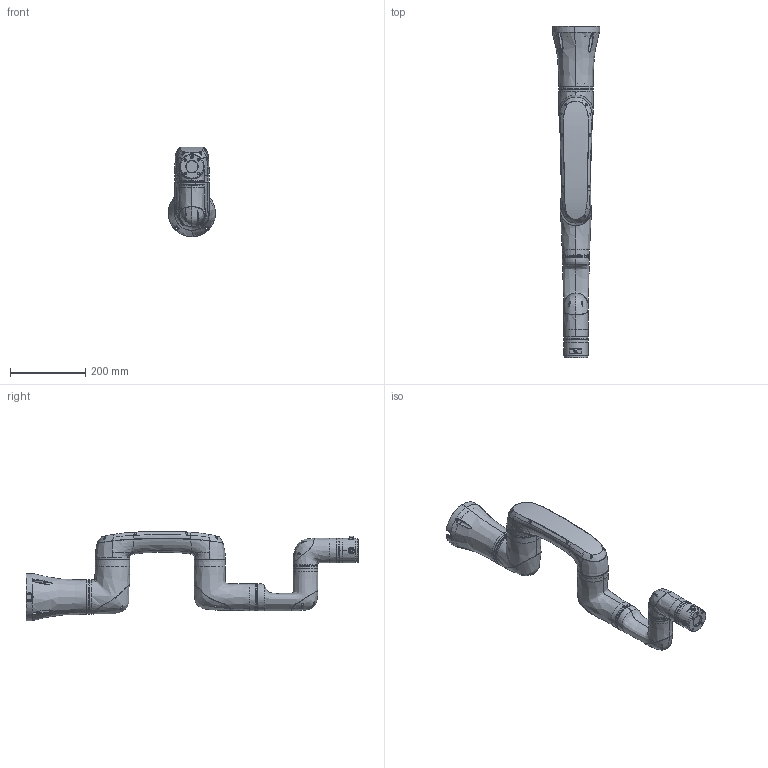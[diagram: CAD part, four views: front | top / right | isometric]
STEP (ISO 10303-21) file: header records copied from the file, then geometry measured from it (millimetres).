
FILE_DESCRIPTION (( 'STEP AP214' ), '1' );
FILE_NAME ('LS62潠眢耀倰.STEP', '2026-01-13T01:26:05', ( '' ), ( '' ), 'SwSTEP 2.0', 'SolidWorks 2020', '' );
FILE_SCHEMA (( 'AUTOMOTIVE_DESIGN' ));
Length unit declared in the file: millimetre
Products named in the file (8): LS2-J1; LS2-link1; LS62-elbow; LS62潠眢耀倰; LS2-end; LS2-J6; LS2-link2; LS2-J2
Assembly tree (7 placements, depth 2):
  LS62潠眢耀倰
    LS2-J1
    LS2-J2
    LS2-link1
    LS62-elbow
    LS2-link2
    LS2-J6
    LS2-end
Bounding box: 125.53 x 885 x 238.21 mm (x, y, z)
Volume: 5646679.1 mm3; surface area: 570627.8 mm2
Topology: 48 solids, 50 shells, 1974 faces, 4565 edges, 2836 vertices
Faces by surface type: plane 854, cylinder 523, bspline 299, cone 212, torus 57, sphere 29
Entity records: 127320 total; most frequent: CARTESIAN_POINT 64085, ORIENTED_EDGE 8880, DIRECTION 8634, EDGE_CURVE 4440, AXIS2_PLACEMENT_3D 3356, VERTEX_POINT 2808, EDGE_LOOP 2278, FACE_OUTER_BOUND 1974
